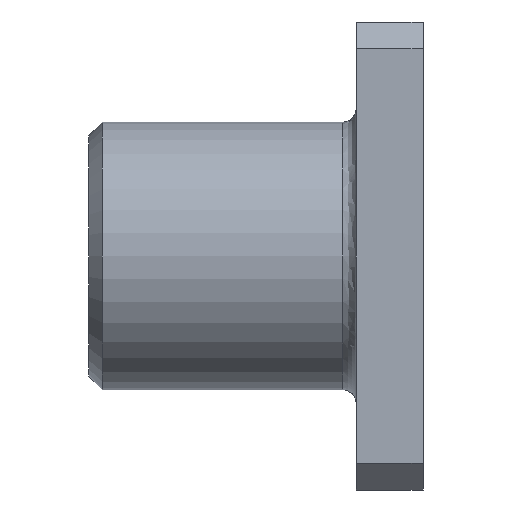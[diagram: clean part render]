
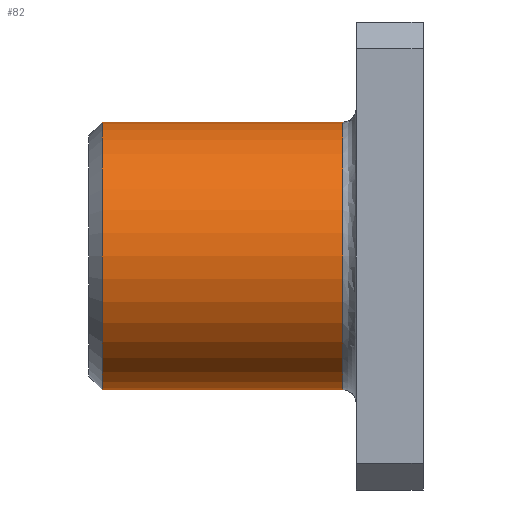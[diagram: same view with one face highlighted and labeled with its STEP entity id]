
A CAD part, left-side view. The second image highlights one B-rep face of the part: STEP entity #82.
In plain terms, the highlighted cylindrical face has radius 10 mm (diameter 20 mm), a partial arc.
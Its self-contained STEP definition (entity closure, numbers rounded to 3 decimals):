
#82 = ADVANCED_FACE ( 'NONE', ( #811 ), #383, .T. ) ;
#106 = EDGE_CURVE ( 'NONE', #538, #1364, #464, .T. ) ;
#127 = AXIS2_PLACEMENT_3D ( 'NONE', #924, #705, #1394 ) ;
#148 = CARTESIAN_POINT ( 'NONE',  ( 0., 24., 10. ) ) ;
#184 = CARTESIAN_POINT ( 'NONE',  ( 0., 24., 10. ) ) ;
#220 = LINE ( 'NONE', #148, #1119 ) ;
#223 = EDGE_CURVE ( 'NONE', #1009, #538, #416, .T. ) ;
#263 = CARTESIAN_POINT ( 'NONE',  ( 0., 6., 10. ) ) ;
#335 = ORIENTED_EDGE ( 'NONE', *, *, #1376, .F. ) ;
#360 = AXIS2_PLACEMENT_3D ( 'NONE', #1407, #1427, #1508 ) ;
#383 = CYLINDRICAL_SURFACE ( 'NONE', #360, 10. ) ;
#416 = LINE ( 'NONE', #980, #1221 ) ;
#464 = CIRCLE ( 'NONE', #127, 10. ) ;
#538 = VERTEX_POINT ( 'NONE', #1118 ) ;
#539 = CARTESIAN_POINT ( 'NONE',  ( 0., 24., 0. ) ) ;
#592 = CIRCLE ( 'NONE', #1107, 10. ) ;
#645 = DIRECTION ( 'NONE',  ( 0., 0., -1. ) ) ;
#653 = CARTESIAN_POINT ( 'NONE',  ( 0., 24., -10. ) ) ;
#683 = DIRECTION ( 'NONE',  ( 0., -1., 0. ) ) ;
#705 = DIRECTION ( 'NONE',  ( 0., 1., 0. ) ) ;
#726 = ORIENTED_EDGE ( 'NONE', *, *, #917, .F. ) ;
#765 = ORIENTED_EDGE ( 'NONE', *, *, #223, .T. ) ;
#766 = EDGE_LOOP ( 'NONE', ( #335, #726, #765, #969 ) ) ;
#811 = FACE_OUTER_BOUND ( 'NONE', #766, .T. ) ;
#917 = EDGE_CURVE ( 'NONE', #1009, #956, #592, .T. ) ;
#924 = CARTESIAN_POINT ( 'NONE',  ( 0., 6., 0. ) ) ;
#956 = VERTEX_POINT ( 'NONE', #184 ) ;
#969 = ORIENTED_EDGE ( 'NONE', *, *, #106, .T. ) ;
#980 = CARTESIAN_POINT ( 'NONE',  ( 0., 24., -10. ) ) ;
#1009 = VERTEX_POINT ( 'NONE', #653 ) ;
#1107 = AXIS2_PLACEMENT_3D ( 'NONE', #539, #1346, #645 ) ;
#1118 = CARTESIAN_POINT ( 'NONE',  ( 0., 6., -10. ) ) ;
#1119 = VECTOR ( 'NONE', #1174, 1000. ) ;
#1174 = DIRECTION ( 'NONE',  ( 0., -1., 0. ) ) ;
#1221 = VECTOR ( 'NONE', #683, 1000. ) ;
#1346 = DIRECTION ( 'NONE',  ( 0., 1., 0. ) ) ;
#1364 = VERTEX_POINT ( 'NONE', #263 ) ;
#1376 = EDGE_CURVE ( 'NONE', #956, #1364, #220, .T. ) ;
#1394 = DIRECTION ( 'NONE',  ( -1., 0., 0. ) ) ;
#1407 = CARTESIAN_POINT ( 'NONE',  ( 0., 24., 0. ) ) ;
#1427 = DIRECTION ( 'NONE',  ( 0., -1., 0. ) ) ;
#1508 = DIRECTION ( 'NONE',  ( 0., 0., -1. ) ) ;
